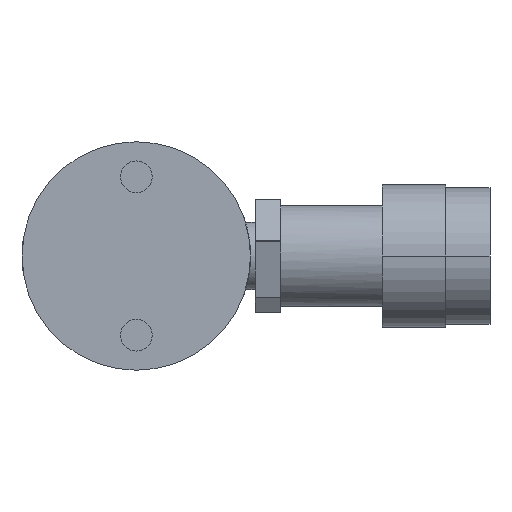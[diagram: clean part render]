
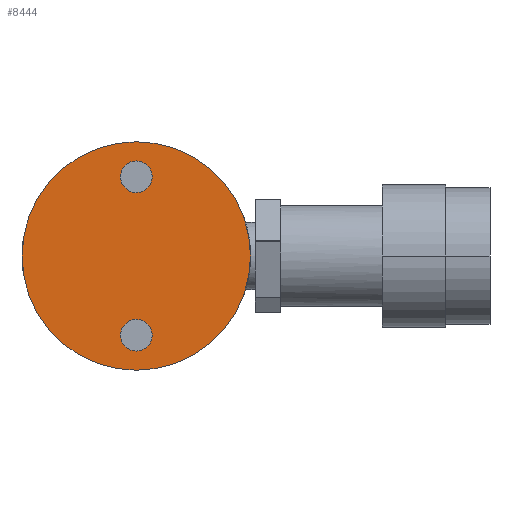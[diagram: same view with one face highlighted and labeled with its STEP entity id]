
A CAD part, front view. The second image highlights one B-rep face of the part: STEP entity #8444.
In plain terms, the highlighted planar face has unit normal (0, -1, 0).
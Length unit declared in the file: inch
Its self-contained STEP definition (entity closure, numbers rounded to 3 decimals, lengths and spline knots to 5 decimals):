
#2895=CARTESIAN_POINT('',(1.12521,0.,-1.125));
#2896=DIRECTION('',(0.,-1.,0.));
#2897=DIRECTION('',(1.,0.,0.));
#2898=AXIS2_PLACEMENT_3D('',#2895,#2896,#2897);
#2900=CARTESIAN_POINT('',(1.12521,0.,-1.125));
#2901=DIRECTION('',(0.,-1.,0.));
#2902=DIRECTION('',(-1.,0.,0.));
#2903=AXIS2_PLACEMENT_3D('',#2900,#2901,#2902);
#2905=CARTESIAN_POINT('',(1.12521,0.,-1.905));
#2906=DIRECTION('',(0.,1.,0.));
#2907=DIRECTION('',(1.,0.,0.));
#2908=AXIS2_PLACEMENT_3D('',#2905,#2906,#2907);
#2910=CARTESIAN_POINT('',(1.12521,0.,-1.905));
#2911=DIRECTION('',(0.,1.,0.));
#2912=DIRECTION('',(-1.,0.,0.));
#2913=AXIS2_PLACEMENT_3D('',#2910,#2911,#2912);
#2915=CARTESIAN_POINT('',(1.12521,0.,-0.345));
#2916=DIRECTION('',(0.,1.,0.));
#2917=DIRECTION('',(1.,0.,0.));
#2918=AXIS2_PLACEMENT_3D('',#2915,#2916,#2917);
#2920=CARTESIAN_POINT('',(1.12521,0.,-0.345));
#2921=DIRECTION('',(0.,1.,0.));
#2922=DIRECTION('',(-1.,0.,0.));
#2923=AXIS2_PLACEMENT_3D('',#2920,#2921,#2922);
#3469=CARTESIAN_POINT('',(2.25021,0.,-1.125));
#3470=CARTESIAN_POINT('',(0.00021,0.,-1.125));
#3471=VERTEX_POINT('',#3469);
#3472=VERTEX_POINT('',#3470);
#3473=CARTESIAN_POINT('',(1.28146,0.,-1.905));
#3474=CARTESIAN_POINT('',(0.96896,0.,-1.905));
#3475=VERTEX_POINT('',#3473);
#3476=VERTEX_POINT('',#3474);
#3477=CARTESIAN_POINT('',(1.28146,0.,-0.345));
#3478=CARTESIAN_POINT('',(0.96896,0.,-0.345));
#3479=VERTEX_POINT('',#3477);
#3480=VERTEX_POINT('',#3478);
#8423=CARTESIAN_POINT('',(1.12521,0.,-1.125));
#8424=DIRECTION('',(0.,1.,0.));
#8425=DIRECTION('',(-1.,0.,0.));
#8426=AXIS2_PLACEMENT_3D('',#8423,#8424,#8425);
#8427=PLANE('',#8426);
#8428=ORIENTED_EDGE('',*,*,#5919,.F.);
#8429=ORIENTED_EDGE('',*,*,#6246,.F.);
#8430=EDGE_LOOP('',(#8428,#8429));
#8431=FACE_OUTER_BOUND('',#8430,.F.);
#8433=ORIENTED_EDGE('',*,*,#8432,.F.);
#8435=ORIENTED_EDGE('',*,*,#8434,.F.);
#8436=EDGE_LOOP('',(#8433,#8435));
#8437=FACE_BOUND('',#8436,.F.);
#8439=ORIENTED_EDGE('',*,*,#8438,.F.);
#8441=ORIENTED_EDGE('',*,*,#8440,.F.);
#8442=EDGE_LOOP('',(#8439,#8441));
#8443=FACE_BOUND('',#8442,.F.);
#8444=ADVANCED_FACE('',(#8431,#8437,#8443),#8427,.F.);
#2899=CIRCLE('',#2898,1.125);
#2904=CIRCLE('',#2903,1.125);
#2909=CIRCLE('',#2908,0.15625);
#2914=CIRCLE('',#2913,0.15625);
#2919=CIRCLE('',#2918,0.15625);
#2924=CIRCLE('',#2923,0.15625);
#5919=EDGE_CURVE('',#3471,#3472,#2899,.T.);
#6246=EDGE_CURVE('',#3472,#3471,#2904,.T.);
#8432=EDGE_CURVE('',#3475,#3476,#2909,.T.);
#8434=EDGE_CURVE('',#3476,#3475,#2914,.T.);
#8438=EDGE_CURVE('',#3479,#3480,#2919,.T.);
#8440=EDGE_CURVE('',#3480,#3479,#2924,.T.);
